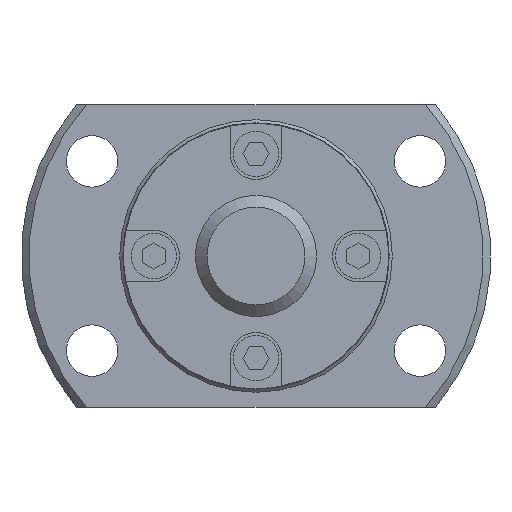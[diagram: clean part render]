
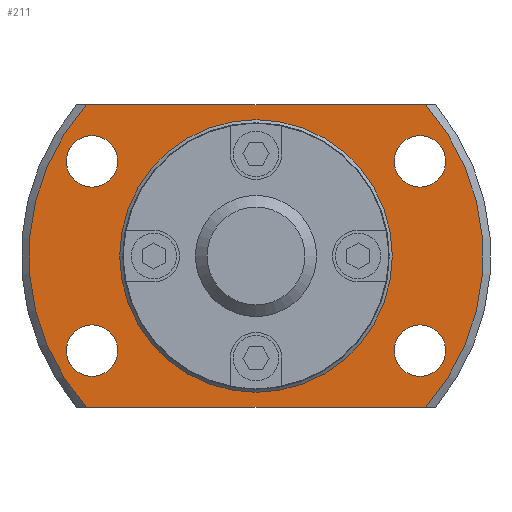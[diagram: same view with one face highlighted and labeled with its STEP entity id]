
A CAD part, left-side view. The second image highlights one B-rep face of the part: STEP entity #211.
In plain terms, the highlighted planar face has unit normal (-1, 0, 0).
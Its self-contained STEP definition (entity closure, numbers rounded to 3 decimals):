
#211 = ADVANCED_FACE( '', ( #414, #415, #416, #417, #418, #419 ), #420, .F. );
#414 = FACE_OUTER_BOUND( '', #747, .T. );
#415 = FACE_BOUND( '', #748, .T. );
#416 = FACE_BOUND( '', #749, .T. );
#417 = FACE_BOUND( '', #750, .T. );
#418 = FACE_BOUND( '', #751, .T. );
#419 = FACE_BOUND( '', #752, .T. );
#420 = PLANE( '', #753 );
#747 = EDGE_LOOP( '', ( #1283, #1284, #1285, #1286 ) );
#748 = EDGE_LOOP( '', ( #1287 ) );
#749 = EDGE_LOOP( '', ( #1288 ) );
#750 = EDGE_LOOP( '', ( #1289 ) );
#751 = EDGE_LOOP( '', ( #1290 ) );
#752 = EDGE_LOOP( '', ( #1291 ) );
#753 = AXIS2_PLACEMENT_3D( '', #1292, #1293, #1294 );
#1283 = ORIENTED_EDGE( '', *, *, #2014, .F. );
#1284 = ORIENTED_EDGE( '', *, *, #2147, .T. );
#1285 = ORIENTED_EDGE( '', *, *, #2152, .F. );
#1286 = ORIENTED_EDGE( '', *, *, #2008, .T. );
#1287 = ORIENTED_EDGE( '', *, *, #2138, .F. );
#1288 = ORIENTED_EDGE( '', *, *, #2140, .F. );
#1289 = ORIENTED_EDGE( '', *, *, #2142, .F. );
#1290 = ORIENTED_EDGE( '', *, *, #2144, .F. );
#1291 = ORIENTED_EDGE( '', *, *, #2153, .T. );
#1292 = CARTESIAN_POINT( '', ( 10., 8.85, 0. ) );
#1293 = DIRECTION( '', ( 1., 0., 0. ) );
#1294 = DIRECTION( '', ( 0., 0., -1. ) );
#2008 = EDGE_CURVE( '', #2323, #2321, #2324, .T. );
#2014 = EDGE_CURVE( '', #2334, #2321, #2335, .T. );
#2138 = EDGE_CURVE( '', #2566, #2566, #2567, .F. );
#2140 = EDGE_CURVE( '', #2570, #2570, #2571, .F. );
#2142 = EDGE_CURVE( '', #2574, #2574, #2575, .F. );
#2144 = EDGE_CURVE( '', #2578, #2578, #2579, .F. );
#2147 = EDGE_CURVE( '', #2334, #2583, #2585, .T. );
#2152 = EDGE_CURVE( '', #2323, #2583, #2593, .T. );
#2153 = EDGE_CURVE( '', #2594, #2594, #2595, .T. );
#2321 = VERTEX_POINT( '', #2846 );
#2323 = VERTEX_POINT( '', #2851 );
#2324 = LINE( '', #2852, #2853 );
#2334 = VERTEX_POINT( '', #2874 );
#2335 = CIRCLE( '', #2875, 15. );
#2566 = VERTEX_POINT( '', #3197 );
#2567 = CIRCLE( '', #3198, 1.7 );
#2570 = VERTEX_POINT( '', #3201 );
#2571 = CIRCLE( '', #3202, 1.7 );
#2574 = VERTEX_POINT( '', #3205 );
#2575 = CIRCLE( '', #3206, 1.7 );
#2578 = VERTEX_POINT( '', #3209 );
#2579 = CIRCLE( '', #3210, 1.7 );
#2583 = VERTEX_POINT( '', #3215 );
#2585 = LINE( '', #3220, #3221 );
#2593 = CIRCLE( '', #3237, 15. );
#2594 = VERTEX_POINT( '', #3238 );
#2595 = CIRCLE( '', #3239, 8.85 );
#2846 = CARTESIAN_POINT( '', ( 10., 11.18, 10. ) );
#2851 = CARTESIAN_POINT( '', ( 10., -11.18, 10. ) );
#2852 = CARTESIAN_POINT( '', ( 10., 8.85, 10. ) );
#2853 = VECTOR( '', #3613, 1000. );
#2874 = CARTESIAN_POINT( '', ( 10., 11.18, -10. ) );
#2875 = AXIS2_PLACEMENT_3D( '', #3616, #3617, #3618 );
#3197 = CARTESIAN_POINT( '', ( 10., -10.825, -7.95 ) );
#3198 = AXIS2_PLACEMENT_3D( '', #3809, #3810, #3811 );
#3201 = CARTESIAN_POINT( '', ( 10., -10.825, 4.55 ) );
#3202 = AXIS2_PLACEMENT_3D( '', #3815, #3816, #3817 );
#3205 = CARTESIAN_POINT( '', ( 10., 10.825, -7.95 ) );
#3206 = AXIS2_PLACEMENT_3D( '', #3821, #3822, #3823 );
#3209 = CARTESIAN_POINT( '', ( 10., 10.825, 4.55 ) );
#3210 = AXIS2_PLACEMENT_3D( '', #3827, #3828, #3829 );
#3215 = CARTESIAN_POINT( '', ( 10., -11.18, -10. ) );
#3220 = CARTESIAN_POINT( '', ( 10., 8.85, -10. ) );
#3221 = VECTOR( '', #3831, 1000. );
#3237 = AXIS2_PLACEMENT_3D( '', #3834, #3835, #3836 );
#3238 = CARTESIAN_POINT( '', ( 10., 0., -8.85 ) );
#3239 = AXIS2_PLACEMENT_3D( '', #3837, #3838, #3839 );
#3613 = DIRECTION( '', ( 0., 1., 0. ) );
#3616 = CARTESIAN_POINT( '', ( 10., 0., 0. ) );
#3617 = DIRECTION( '', ( 1., 0., 0. ) );
#3618 = DIRECTION( '', ( 0., 0., -1. ) );
#3809 = CARTESIAN_POINT( '', ( 10., -10.825, -6.25 ) );
#3810 = DIRECTION( '', ( 1., 0., 0. ) );
#3811 = DIRECTION( '', ( 0., 0., -1. ) );
#3815 = CARTESIAN_POINT( '', ( 10., -10.825, 6.25 ) );
#3816 = DIRECTION( '', ( 1., 0., 0. ) );
#3817 = DIRECTION( '', ( 0., 0., -1. ) );
#3821 = CARTESIAN_POINT( '', ( 10., 10.825, -6.25 ) );
#3822 = DIRECTION( '', ( 1., 0., 0. ) );
#3823 = DIRECTION( '', ( 0., 0., -1. ) );
#3827 = CARTESIAN_POINT( '', ( 10., 10.825, 6.25 ) );
#3828 = DIRECTION( '', ( 1., 0., 0. ) );
#3829 = DIRECTION( '', ( 0., 0., -1. ) );
#3831 = DIRECTION( '', ( 0., -1., 0. ) );
#3834 = CARTESIAN_POINT( '', ( 10., 0., 0. ) );
#3835 = DIRECTION( '', ( 1., 0., 0. ) );
#3836 = DIRECTION( '', ( 0., 0., -1. ) );
#3837 = CARTESIAN_POINT( '', ( 10., 0., 0. ) );
#3838 = DIRECTION( '', ( 1., 0., 0. ) );
#3839 = DIRECTION( '', ( 0., 0., -1. ) );
